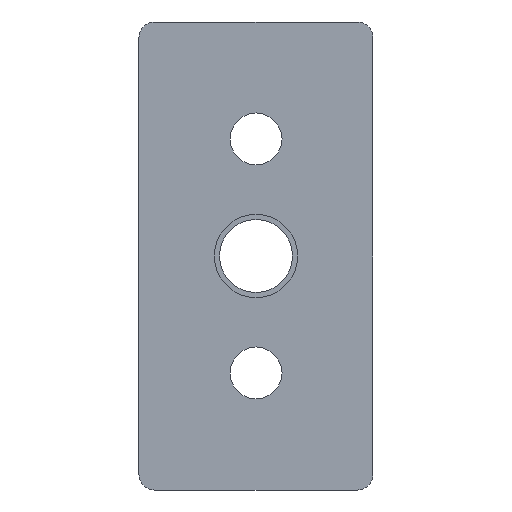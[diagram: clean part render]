
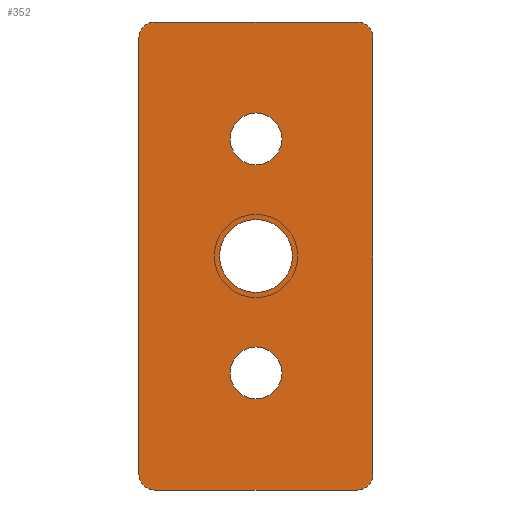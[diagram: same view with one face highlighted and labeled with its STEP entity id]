
A CAD part, front view. The second image highlights one B-rep face of the part: STEP entity #352.
In plain terms, the highlighted planar face has unit normal (0, -1, 0).
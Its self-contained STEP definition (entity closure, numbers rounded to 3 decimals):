
#1=CARTESIAN_POINT('',(0.,0.,-22.5));
#2=DIRECTION('',(0.,-1.,0.));
#3=DIRECTION('',(1.,0.,0.));
#4=AXIS2_PLACEMENT_3D('',#1,#2,#3);
#6=CARTESIAN_POINT('',(0.,0.,-22.5));
#7=DIRECTION('',(0.,-1.,0.));
#8=DIRECTION('',(-1.,0.,0.));
#9=AXIS2_PLACEMENT_3D('',#6,#7,#8);
#11=CARTESIAN_POINT('',(0.,0.,22.5));
#12=DIRECTION('',(0.,-1.,0.));
#13=DIRECTION('',(1.,0.,0.));
#14=AXIS2_PLACEMENT_3D('',#11,#12,#13);
#16=CARTESIAN_POINT('',(0.,0.,22.5));
#17=DIRECTION('',(0.,-1.,0.));
#18=DIRECTION('',(-1.,0.,0.));
#19=AXIS2_PLACEMENT_3D('',#16,#17,#18);
#21=CARTESIAN_POINT('',(0.,0.,0.));
#22=DIRECTION('',(0.,1.,0.));
#23=DIRECTION('',(1.,0.,0.));
#24=AXIS2_PLACEMENT_3D('',#21,#22,#23);
#26=CARTESIAN_POINT('',(0.,0.,0.));
#27=DIRECTION('',(0.,1.,0.));
#28=DIRECTION('',(-1.,0.,0.));
#29=AXIS2_PLACEMENT_3D('',#26,#27,#28);
#31=DIRECTION('',(0.,0.,-1.));
#32=VECTOR('',#31,84.);
#33=CARTESIAN_POINT('',(22.5,0.,42.));
#34=LINE('',#33,#32);
#35=DIRECTION('',(-1.,0.,0.));
#36=VECTOR('',#35,39.);
#37=CARTESIAN_POINT('',(19.5,0.,-45.));
#38=LINE('',#37,#36);
#39=DIRECTION('',(0.,0.,1.));
#40=VECTOR('',#39,84.);
#41=CARTESIAN_POINT('',(-22.5,0.,-42.));
#42=LINE('',#41,#40);
#43=DIRECTION('',(1.,0.,0.));
#44=VECTOR('',#43,39.);
#45=CARTESIAN_POINT('',(-19.5,0.,45.));
#46=LINE('',#45,#44);
#184=CARTESIAN_POINT('',(19.5,0.,42.));
#185=DIRECTION('',(0.,-1.,0.));
#186=DIRECTION('',(1.,0.,0.));
#187=AXIS2_PLACEMENT_3D('',#184,#185,#186);
#202=CARTESIAN_POINT('',(-19.5,0.,42.));
#203=DIRECTION('',(0.,-1.,0.));
#204=DIRECTION('',(0.,0.,1.));
#205=AXIS2_PLACEMENT_3D('',#202,#203,#204);
#220=CARTESIAN_POINT('',(-19.5,0.,-42.));
#221=DIRECTION('',(0.,-1.,0.));
#222=DIRECTION('',(-1.,0.,0.));
#223=AXIS2_PLACEMENT_3D('',#220,#221,#222);
#238=CARTESIAN_POINT('',(19.5,0.,-42.));
#239=DIRECTION('',(0.,-1.,0.));
#240=DIRECTION('',(0.,0.,-1.));
#241=AXIS2_PLACEMENT_3D('',#238,#239,#240);
#243=CARTESIAN_POINT('',(5.,0.,-22.5));
#244=CARTESIAN_POINT('',(-5.,0.,-22.5));
#245=VERTEX_POINT('',#243);
#246=VERTEX_POINT('',#244);
#247=CARTESIAN_POINT('',(5.,0.,22.5));
#248=CARTESIAN_POINT('',(-5.,0.,22.5));
#249=VERTEX_POINT('',#247);
#250=VERTEX_POINT('',#248);
#271=CARTESIAN_POINT('',(7.,0.,0.));
#272=CARTESIAN_POINT('',(-7.,0.,0.));
#273=VERTEX_POINT('',#271);
#274=VERTEX_POINT('',#272);
#280=CARTESIAN_POINT('',(19.5,0.,45.));
#282=VERTEX_POINT('',#280);
#285=CARTESIAN_POINT('',(22.5,0.,42.));
#286=VERTEX_POINT('',#285);
#288=CARTESIAN_POINT('',(-22.5,0.,42.));
#290=VERTEX_POINT('',#288);
#293=CARTESIAN_POINT('',(-19.5,0.,45.));
#294=VERTEX_POINT('',#293);
#296=CARTESIAN_POINT('',(22.5,0.,-42.));
#298=VERTEX_POINT('',#296);
#301=CARTESIAN_POINT('',(19.5,0.,-45.));
#302=VERTEX_POINT('',#301);
#304=CARTESIAN_POINT('',(-19.5,0.,-45.));
#306=VERTEX_POINT('',#304);
#309=CARTESIAN_POINT('',(-22.5,0.,-42.));
#310=VERTEX_POINT('',#309);
#311=CARTESIAN_POINT('',(0.,0.,0.));
#312=DIRECTION('',(0.,1.,0.));
#313=DIRECTION('',(1.,0.,0.));
#314=AXIS2_PLACEMENT_3D('',#311,#312,#313);
#315=PLANE('',#314);
#317=ORIENTED_EDGE('',*,*,#316,.F.);
#319=ORIENTED_EDGE('',*,*,#318,.T.);
#321=ORIENTED_EDGE('',*,*,#320,.F.);
#323=ORIENTED_EDGE('',*,*,#322,.T.);
#325=ORIENTED_EDGE('',*,*,#324,.F.);
#327=ORIENTED_EDGE('',*,*,#326,.T.);
#329=ORIENTED_EDGE('',*,*,#328,.F.);
#331=ORIENTED_EDGE('',*,*,#330,.T.);
#332=EDGE_LOOP('',(#317,#319,#321,#323,#325,#327,#329,#331));
#333=FACE_OUTER_BOUND('',#332,.F.);
#335=ORIENTED_EDGE('',*,*,#334,.T.);
#337=ORIENTED_EDGE('',*,*,#336,.T.);
#338=EDGE_LOOP('',(#335,#337));
#339=FACE_BOUND('',#338,.F.);
#341=ORIENTED_EDGE('',*,*,#340,.T.);
#343=ORIENTED_EDGE('',*,*,#342,.T.);
#344=EDGE_LOOP('',(#341,#343));
#345=FACE_BOUND('',#344,.F.);
#347=ORIENTED_EDGE('',*,*,#346,.F.);
#349=ORIENTED_EDGE('',*,*,#348,.F.);
#350=EDGE_LOOP('',(#347,#349));
#351=FACE_BOUND('',#350,.F.);
#352=ADVANCED_FACE('',(#333,#339,#345,#351),#315,.F.);
#5=CIRCLE('',#4,5.);
#10=CIRCLE('',#9,5.);
#15=CIRCLE('',#14,5.);
#20=CIRCLE('',#19,5.);
#25=CIRCLE('',#24,7.);
#30=CIRCLE('',#29,7.);
#188=CIRCLE('',#187,3.);
#206=CIRCLE('',#205,3.);
#224=CIRCLE('',#223,3.);
#242=CIRCLE('',#241,3.);
#316=EDGE_CURVE('',#286,#282,#188,.T.);
#318=EDGE_CURVE('',#286,#298,#34,.T.);
#320=EDGE_CURVE('',#302,#298,#242,.T.);
#322=EDGE_CURVE('',#302,#306,#38,.T.);
#324=EDGE_CURVE('',#310,#306,#224,.T.);
#326=EDGE_CURVE('',#310,#290,#42,.T.);
#328=EDGE_CURVE('',#294,#290,#206,.T.);
#330=EDGE_CURVE('',#294,#282,#46,.T.);
#334=EDGE_CURVE('',#245,#246,#5,.T.);
#336=EDGE_CURVE('',#246,#245,#10,.T.);
#340=EDGE_CURVE('',#249,#250,#15,.T.);
#342=EDGE_CURVE('',#250,#249,#20,.T.);
#346=EDGE_CURVE('',#273,#274,#25,.T.);
#348=EDGE_CURVE('',#274,#273,#30,.T.);
